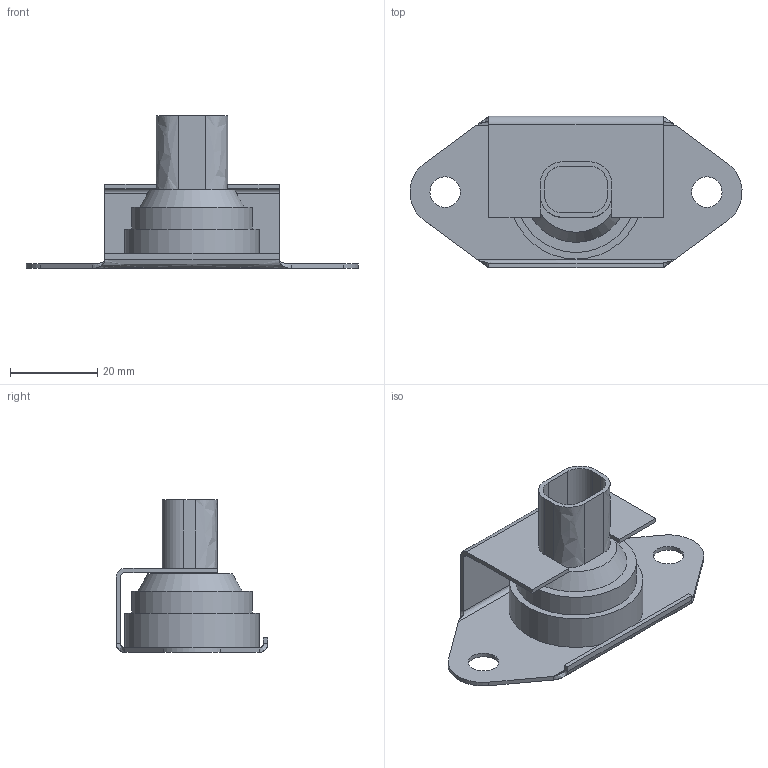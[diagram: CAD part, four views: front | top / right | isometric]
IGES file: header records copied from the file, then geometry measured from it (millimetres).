
Global section: file name: No Iges File Name specified; native system: AutoDesk Inventor R6.0; preprocessor: AutoDesk Inventor Iges Exporter R6.0; author: No Author specified; organization: No Organization specified; date: 20051225.162757; units: millimetre
Bounding box: 76.14 x 34.75 x 35 mm (x, y, z)
Surface area: 10253.6 mm2 (no closed solid volume)
Topology: 0 solids, 0 shells, 65 faces, 324 edges, 319 vertices
Faces by surface type: plane 38, revolution 23, bspline 4
